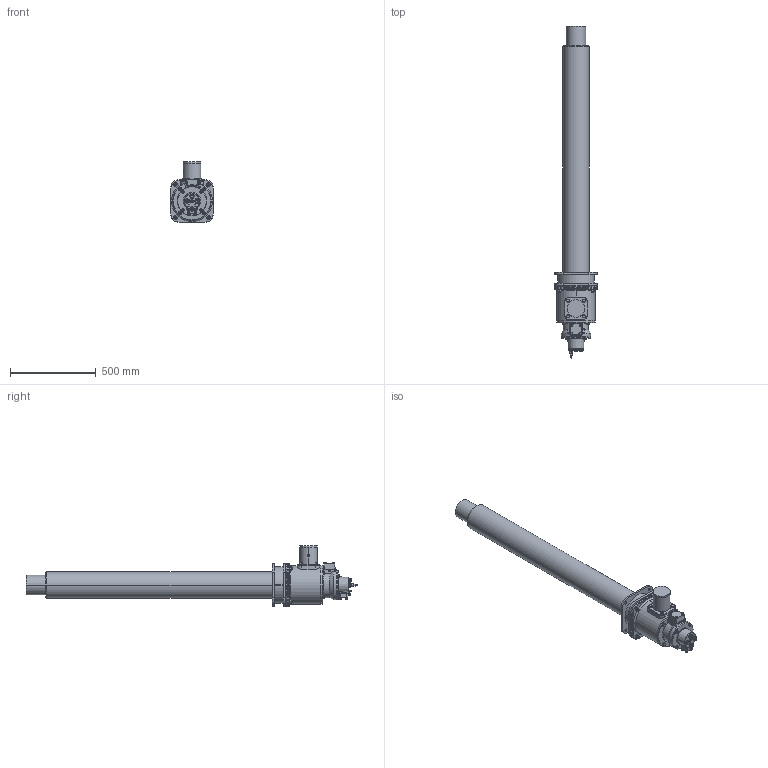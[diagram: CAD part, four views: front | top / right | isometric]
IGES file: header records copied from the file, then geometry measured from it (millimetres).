
Global section: file name: No Iges File Name specified; native system: AutoDesk Inventor R12.0; preprocessor: AutoDesk Inventor Iges Exporter R12.0; date: 20110916.132643; units: millimetre
Bounding box: 250 x 1939.77 x 356 mm (x, y, z)
Volume: 41942044 mm3; surface area: 1682455.9 mm2
Topology: 27 solids, 27 shells, 2350 faces, 5580 edges, 3350 vertices
Faces by surface type: plane 886, cylinder 496, cone 490, bspline 297, revolution 139, torus 42
Full cylindrical faces by diameter (mm): 14.8 x12, 21.1 x4
